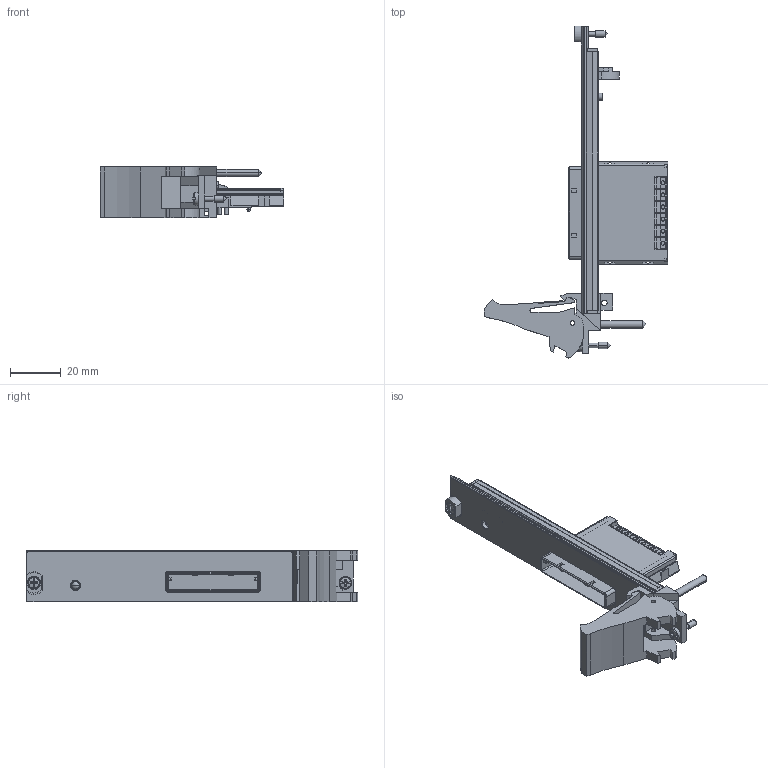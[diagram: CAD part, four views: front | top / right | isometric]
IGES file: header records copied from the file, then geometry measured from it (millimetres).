
Start section:  PTC IGES file: cu_pxie-8381.igs
Global section: file name: cu_pxie-8381.igs; native system: Pro/ENGINEER by Parametric Technology Corporation; preprocessor: 2011490; author: talbott; organization: Unknown; date: 20130718.151751; units: inch
Bounding box: 72.02 x 130.5 x 20.31 mm (x, y, z)
Surface area: 23729.2 mm2 (no closed solid volume)
Topology: 0 solids, 0 shells, 552 faces, 3105 edges, 3099 vertices
Faces by surface type: bspline 365, revolution 187
